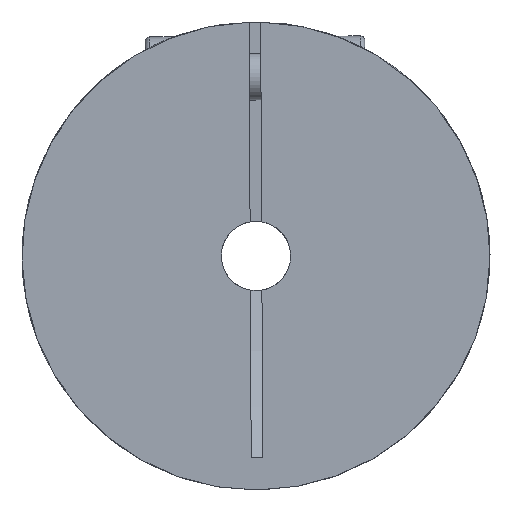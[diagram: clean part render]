
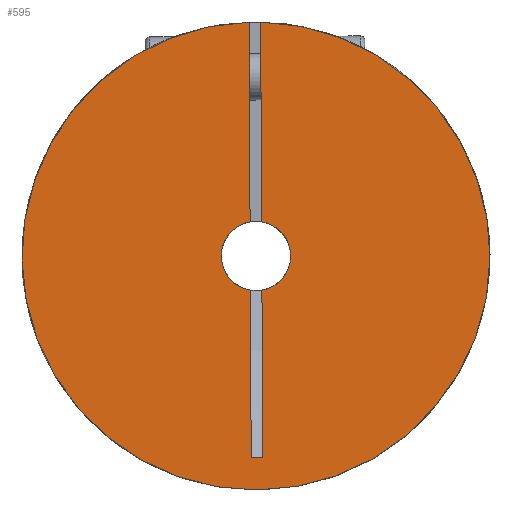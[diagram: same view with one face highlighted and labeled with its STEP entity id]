
A CAD part, left-side view. The second image highlights one B-rep face of the part: STEP entity #595.
In plain terms, the highlighted planar face has unit normal (-1, 0, 0) as drawn and (1, 0, 0) by its records, which use the part's own axes.
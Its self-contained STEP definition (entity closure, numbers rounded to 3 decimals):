
#595 = ADVANCED_FACE( '', ( #1218 ), #1219, .T. );
#1218 = FACE_OUTER_BOUND( '', #1827, .T. );
#1219 = PLANE( '', #1828 );
#1827 = EDGE_LOOP( '', ( #3044, #3045, #3046, #3047, #3048, #3049, #3050, #3051 ) );
#1828 = AXIS2_PLACEMENT_3D( '', #3052, #3053, #3054 );
#3044 = ORIENTED_EDGE( '', *, *, #3221, .F. );
#3045 = ORIENTED_EDGE( '', *, *, #3572, .F. );
#3046 = ORIENTED_EDGE( '', *, *, #3551, .T. );
#3047 = ORIENTED_EDGE( '', *, *, #3673, .T. );
#3048 = ORIENTED_EDGE( '', *, *, #3628, .T. );
#3049 = ORIENTED_EDGE( '', *, *, #3668, .T. );
#3050 = ORIENTED_EDGE( '', *, *, #3446, .F. );
#3051 = ORIENTED_EDGE( '', *, *, #3674, .T. );
#3052 = CARTESIAN_POINT( '', ( 21., 0., 20.25 ) );
#3053 = DIRECTION( '', ( 1., 0., 0. ) );
#3054 = DIRECTION( '', ( 0., 0., -1. ) );
#3221 = EDGE_CURVE( '', #3732, #3734, #3735, .T. );
#3446 = EDGE_CURVE( '', #4109, #4110, #4111, .T. );
#3551 = EDGE_CURVE( '', #4253, #4255, #4257, .T. );
#3572 = EDGE_CURVE( '', #4253, #3732, #4283, .T. );
#3628 = EDGE_CURVE( '', #4348, #4350, #4352, .T. );
#3668 = EDGE_CURVE( '', #4350, #4110, #4396, .F. );
#3673 = EDGE_CURVE( '', #4255, #4348, #4400, .T. );
#3674 = EDGE_CURVE( '', #4109, #3734, #4401, .T. );
#3732 = VERTEX_POINT( '', #4460 );
#3734 = VERTEX_POINT( '', #4463 );
#3735 = LINE( '', #4464, #4465 );
#4109 = VERTEX_POINT( '', #5024 );
#4110 = VERTEX_POINT( '', #5025 );
#4111 = LINE( '', #5026, #5027 );
#4253 = VERTEX_POINT( '', #5323 );
#4255 = VERTEX_POINT( '', #5326 );
#4257 = LINE( '', #5329, #5330 );
#4283 = CIRCLE( '', #5360, 20.25 );
#4348 = VERTEX_POINT( '', #5434 );
#4350 = VERTEX_POINT( '', #5437 );
#4352 = LINE( '', #5439, #5440 );
#4396 = LINE( '', #5493, #5494 );
#4400 = CIRCLE( '', #5498, 3. );
#4401 = CIRCLE( '', #5499, 3. );
#4460 = CARTESIAN_POINT( '', ( 21., 20.244, 0.5 ) );
#4463 = CARTESIAN_POINT( '', ( 21., 2.958, 0.5 ) );
#4464 = CARTESIAN_POINT( '', ( 21., 0., 0.5 ) );
#4465 = VECTOR( '', #5559, 1000. );
#5024 = CARTESIAN_POINT( '', ( 21., -2.958, 0.5 ) );
#5025 = CARTESIAN_POINT( '', ( 21., -17.476, 0.5 ) );
#5026 = CARTESIAN_POINT( '', ( 21., 0., 0.5 ) );
#5027 = VECTOR( '', #5929, 1000. );
#5323 = CARTESIAN_POINT( '', ( 21., 20.244, -0.5 ) );
#5326 = CARTESIAN_POINT( '', ( 21., 2.958, -0.5 ) );
#5329 = CARTESIAN_POINT( '', ( 21., 0., -0.5 ) );
#5330 = VECTOR( '', #6069, 1000. );
#5360 = AXIS2_PLACEMENT_3D( '', #6098, #6099, #6100 );
#5434 = CARTESIAN_POINT( '', ( 21., -2.958, -0.5 ) );
#5437 = CARTESIAN_POINT( '', ( 21., -17.476, -0.5 ) );
#5439 = CARTESIAN_POINT( '', ( 21., 0., -0.5 ) );
#5440 = VECTOR( '', #6177, 1000. );
#5493 = CARTESIAN_POINT( '', ( 21., -17.476, 0.5 ) );
#5494 = VECTOR( '', #6220, 1000. );
#5498 = AXIS2_PLACEMENT_3D( '', #6221, #6222, #6223 );
#5499 = AXIS2_PLACEMENT_3D( '', #6224, #6225, #6226 );
#5559 = DIRECTION( '', ( 0., -1., 0. ) );
#5929 = DIRECTION( '', ( 0., -1., 0. ) );
#6069 = DIRECTION( '', ( 0., -1., 0. ) );
#6098 = CARTESIAN_POINT( '', ( 21., 0., 0. ) );
#6099 = DIRECTION( '', ( -1., 0., 0. ) );
#6100 = DIRECTION( '', ( 0., 0., 1. ) );
#6177 = DIRECTION( '', ( 0., -1., 0. ) );
#6220 = DIRECTION( '', ( 0., 0., -1. ) );
#6221 = CARTESIAN_POINT( '', ( 21., 0., 0. ) );
#6222 = DIRECTION( '', ( -1., 0., 0. ) );
#6223 = DIRECTION( '', ( 0., 0., 1. ) );
#6224 = CARTESIAN_POINT( '', ( 21., 0., 0. ) );
#6225 = DIRECTION( '', ( -1., 0., 0. ) );
#6226 = DIRECTION( '', ( 0., 0., 1. ) );
